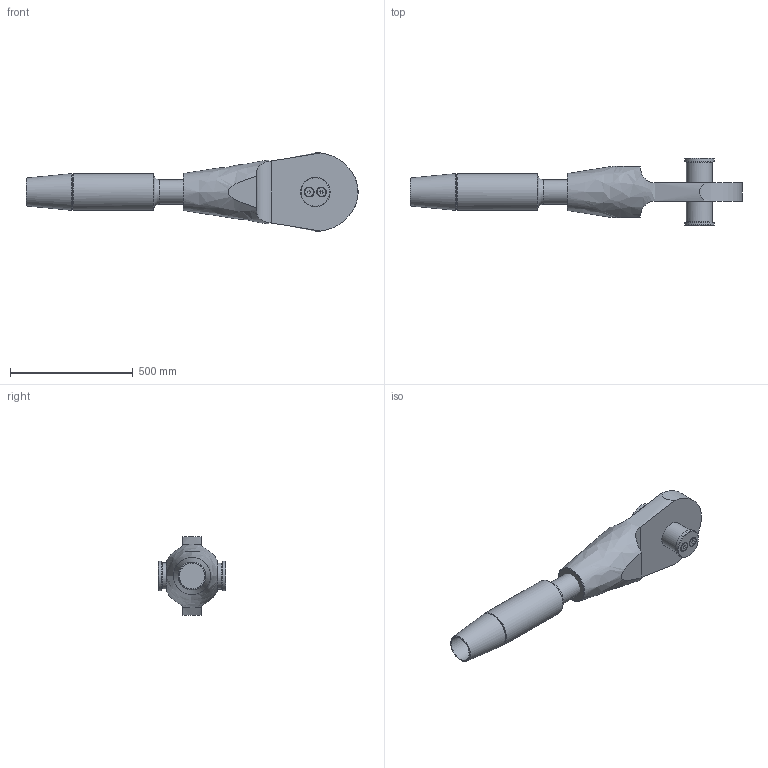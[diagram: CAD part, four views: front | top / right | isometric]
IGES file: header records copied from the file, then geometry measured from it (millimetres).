
Global section: file name: 520-100-OES-ADA; native system: Autodesk Inventor 2020; preprocessor: unknown; author: Administrator; date: 20201008.095833; units: millimetre
Bounding box: 1352.77 x 275 x 320.74 mm (x, y, z)
Volume: 29338008.5 mm3; surface area: 1136405.3 mm2
Topology: 10 solids, 10 shells, 109 faces, 281 edges, 193 vertices
Faces by surface type: bspline 109
